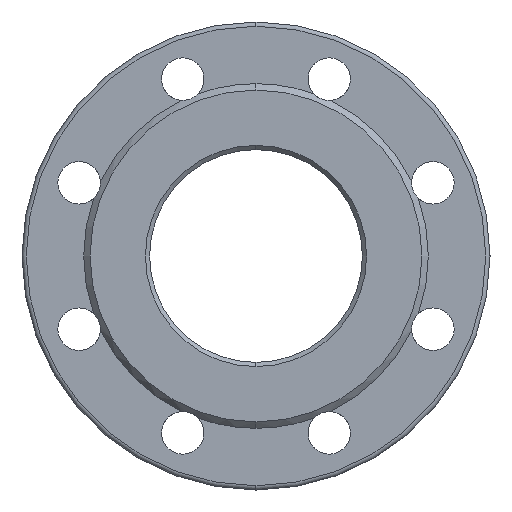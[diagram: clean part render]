
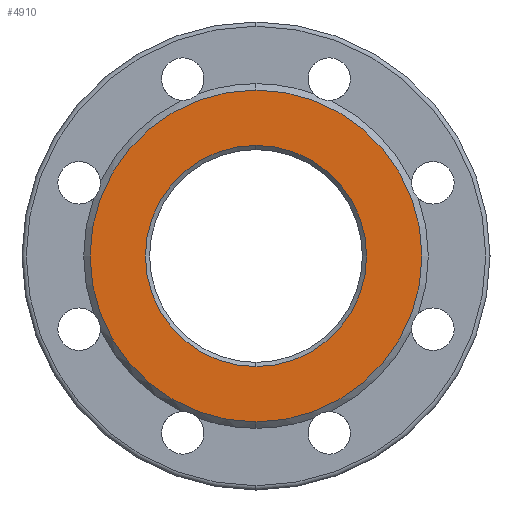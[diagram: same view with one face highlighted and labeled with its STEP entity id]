
A CAD part, left-side view. The second image highlights one B-rep face of the part: STEP entity #4910.
In plain terms, the highlighted planar face has unit normal (-1, 0, 0).
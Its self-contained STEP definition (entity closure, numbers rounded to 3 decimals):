
#290 = DIRECTION ( 'NONE',  ( -1., 0., 0. ) ) ;
#303 = AXIS2_PLACEMENT_3D ( 'NONE', #2510, #2457, #4430 ) ;
#370 = DIRECTION ( 'NONE',  ( 0., 0., 1. ) ) ;
#371 = EDGE_LOOP ( 'NONE', ( #1501, #3367 ) ) ;
#385 = EDGE_CURVE ( 'Defeatured_0_3+Defeatured_0_70+Defeatured_0_70+Defeatured_0_70', #2662, #2866, #1476, .T. ) ;
#445 = DIRECTION ( 'NONE',  ( 0., 0., -1. ) ) ;
#522 = DIRECTION ( 'NONE',  ( 1., 0., 0. ) ) ;
#556 = AXIS2_PLACEMENT_3D ( 'NONE', #3713, #522, #445 ) ;
#652 = EDGE_CURVE ( 'Defeatured_0_3+Defeatured_0_70+Defeatured_0_70+Defeatured_0_70', #2866, #2662, #4374, .T. ) ;
#657 = CARTESIAN_POINT ( 'NONE',  ( -250., 0., -78. ) ) ;
#787 = ORIENTED_EDGE ( 'NONE', *, *, #3699, .T. ) ;
#950 = CARTESIAN_POINT ( 'NONE',  ( -250., 0., 78. ) ) ;
#963 = FACE_BOUND ( 'NONE', #371, .T. ) ;
#1001 = VERTEX_POINT ( 'NONE', #657 ) ;
#1115 = EDGE_CURVE ( 'Defeatured_0_3+Defeatured_0_0+Defeatured_0_0+Defeatured_0_0', #3657, #1001, #1730, .T. ) ;
#1360 = FACE_OUTER_BOUND ( 'NONE', #4170, .T. ) ;
#1476 = CIRCLE ( 'NONE', #1556, 52. ) ;
#1494 = CARTESIAN_POINT ( 'NONE',  ( -250., 0., 0. ) ) ;
#1501 = ORIENTED_EDGE ( 'NONE', *, *, #652, .T. ) ;
#1522 = CARTESIAN_POINT ( 'NONE',  ( -250., 0., -52. ) ) ;
#1556 = AXIS2_PLACEMENT_3D ( 'NONE', #1494, #2624, #4965 ) ;
#1730 = CIRCLE ( 'NONE', #1981, 78. ) ;
#1981 = AXIS2_PLACEMENT_3D ( 'NONE', #5093, #290, #370 ) ;
#2093 = CARTESIAN_POINT ( 'NONE',  ( -250., 50., 0. ) ) ;
#2457 = DIRECTION ( 'NONE',  ( -1., 0., 0. ) ) ;
#2503 = DIRECTION ( 'NONE',  ( 1., 0., 0. ) ) ;
#2510 = CARTESIAN_POINT ( 'NONE',  ( -250., 0., 0. ) ) ;
#2624 = DIRECTION ( 'NONE',  ( 1., 0., 0. ) ) ;
#2662 = VERTEX_POINT ( 'NONE', #1522 ) ;
#2866 = VERTEX_POINT ( 'NONE', #3952 ) ;
#3367 = ORIENTED_EDGE ( 'NONE', *, *, #385, .T. ) ;
#3639 = PLANE ( 'NONE',  #5036 ) ;
#3657 = VERTEX_POINT ( 'NONE', #950 ) ;
#3699 = EDGE_CURVE ( 'Defeatured_0_3+Defeatured_0_0+Defeatured_0_0+Defeatured_0_0', #1001, #3657, #4947, .T. ) ;
#3713 = CARTESIAN_POINT ( 'NONE',  ( -250., 0., 0. ) ) ;
#3952 = CARTESIAN_POINT ( 'NONE',  ( -250., 0., 52. ) ) ;
#4025 = DIRECTION ( 'NONE',  ( 0., 0., -1. ) ) ;
#4170 = EDGE_LOOP ( 'NONE', ( #787, #5116 ) ) ;
#4374 = CIRCLE ( 'NONE', #556, 52. ) ;
#4430 = DIRECTION ( 'NONE',  ( 0., 0., 1. ) ) ;
#4910 = ADVANCED_FACE ( 'Defeatured_0_3', ( #963, #1360 ), #3639, .F. ) ;
#4947 = CIRCLE ( 'NONE', #303, 78. ) ;
#4965 = DIRECTION ( 'NONE',  ( 0., 0., -1. ) ) ;
#5036 = AXIS2_PLACEMENT_3D ( 'NONE', #2093, #2503, #4025 ) ;
#5093 = CARTESIAN_POINT ( 'NONE',  ( -250., 0., 0. ) ) ;
#5116 = ORIENTED_EDGE ( 'NONE', *, *, #1115, .T. ) ;
